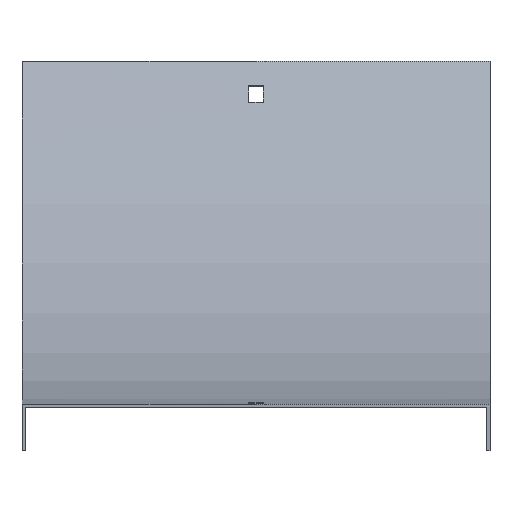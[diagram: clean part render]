
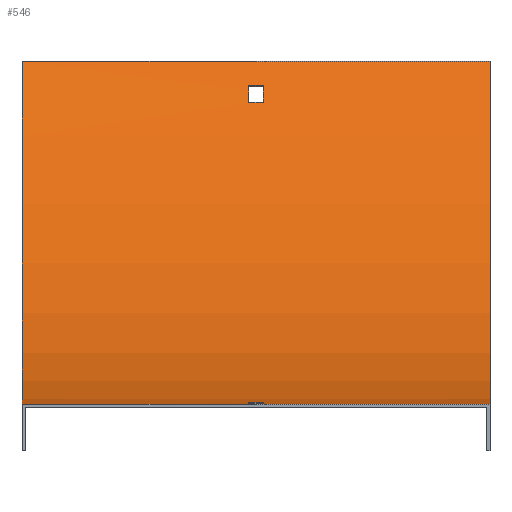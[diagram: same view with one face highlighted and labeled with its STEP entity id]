
A CAD part, top view. The second image highlights one B-rep face of the part: STEP entity #546.
In plain terms, the highlighted cylindrical face has radius 298.5 mm (diameter 597 mm), a partial arc.
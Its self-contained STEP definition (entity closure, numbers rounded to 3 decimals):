
#3 = EDGE_CURVE ( 'NONE', #264, #477, #320, .T. ) ;
#5 = ORIENTED_EDGE ( 'NONE', *, *, #160, .F. ) ;
#7 = CARTESIAN_POINT ( 'NONE',  ( 3.25, 0.74, -21. ) ) ;
#17 = ORIENTED_EDGE ( 'NONE', *, *, #131, .T. ) ;
#23 = CIRCLE ( 'NONE', #360, 298.5 ) ;
#28 = DIRECTION ( 'NONE',  ( 1., 0., 0. ) ) ;
#31 = VERTEX_POINT ( 'NONE', #132 ) ;
#32 = CYLINDRICAL_SURFACE ( 'NONE', #474, 298.5 ) ;
#34 = DIRECTION ( 'NONE',  ( -1., 0., 0. ) ) ;
#35 = VECTOR ( 'NONE', #579, 1000. ) ;
#36 = VERTEX_POINT ( 'NONE', #220 ) ;
#63 = EDGE_CURVE ( 'NONE', #458, #354, #23, .T. ) ;
#66 = AXIS2_PLACEMENT_3D ( 'NONE', #186, #272, #377 ) ;
#67 = CARTESIAN_POINT ( 'NONE',  ( 101.5, 149.25, -258.509 ) ) ;
#72 = ORIENTED_EDGE ( 'NONE', *, *, #420, .T. ) ;
#73 = CARTESIAN_POINT ( 'NONE',  ( 3.25, 138.978, -252.3 ) ) ;
#75 = EDGE_CURVE ( 'NONE', #354, #380, #100, .T. ) ;
#80 = DIRECTION ( 'NONE',  ( 1., 0., 0. ) ) ;
#81 = AXIS2_PLACEMENT_3D ( 'NONE', #172, #80, #210 ) ;
#83 = FACE_OUTER_BOUND ( 'NONE', #293, .T. ) ;
#89 = DIRECTION ( 'NONE',  ( 1., 0., 0. ) ) ;
#94 = DIRECTION ( 'NONE',  ( -1., 0., 0. ) ) ;
#96 = LINE ( 'NONE', #178, #393 ) ;
#100 = LINE ( 'NONE', #135, #101 ) ;
#101 = VECTOR ( 'NONE', #89, 1000. ) ;
#111 = CARTESIAN_POINT ( 'NONE',  ( 101.5, 0., 0. ) ) ;
#114 = EDGE_CURVE ( 'NONE', #36, #264, #96, .T. ) ;
#118 = EDGE_CURVE ( 'NONE', #31, #366, #372, .T. ) ;
#131 = EDGE_CURVE ( 'NONE', #163, #36, #505, .T. ) ;
#132 = CARTESIAN_POINT ( 'NONE',  ( -101.5, 149.25, -258.509 ) ) ;
#135 = CARTESIAN_POINT ( 'NONE',  ( 101.5, 131.433, -247.368 ) ) ;
#153 = CARTESIAN_POINT ( 'NONE',  ( -101.5, 0., 0. ) ) ;
#154 = CARTESIAN_POINT ( 'NONE',  ( -3.25, 0.241, -12. ) ) ;
#160 = EDGE_CURVE ( 'NONE', #399, #268, #291, .T. ) ;
#163 = VERTEX_POINT ( 'NONE', #7 ) ;
#172 = CARTESIAN_POINT ( 'NONE',  ( 3.25, 298.5, 0. ) ) ;
#175 = DIRECTION ( 'NONE',  ( 0., 0., 1. ) ) ;
#178 = CARTESIAN_POINT ( 'NONE',  ( 101.5, 0.241, -12. ) ) ;
#186 = CARTESIAN_POINT ( 'NONE',  ( -101.5, 298.5, 0. ) ) ;
#188 = CARTESIAN_POINT ( 'NONE',  ( 101.5, 0., 0. ) ) ;
#189 = EDGE_CURVE ( 'NONE', #547, #458, #391, .T. ) ;
#194 = CARTESIAN_POINT ( 'NONE',  ( -3.25, 131.433, -247.368 ) ) ;
#196 = ORIENTED_EDGE ( 'NONE', *, *, #114, .T. ) ;
#201 = LINE ( 'NONE', #111, #227 ) ;
#206 = ORIENTED_EDGE ( 'NONE', *, *, #118, .T. ) ;
#210 = DIRECTION ( 'NONE',  ( 0., 0., 1. ) ) ;
#212 = DIRECTION ( 'NONE',  ( 0., 0., 1. ) ) ;
#215 = VECTOR ( 'NONE', #28, 1000. ) ;
#220 = CARTESIAN_POINT ( 'NONE',  ( 3.25, 0.241, -12. ) ) ;
#223 = ORIENTED_EDGE ( 'NONE', *, *, #189, .F. ) ;
#227 = VECTOR ( 'NONE', #578, 1000. ) ;
#248 = CARTESIAN_POINT ( 'NONE',  ( -3.25, 0.74, -21. ) ) ;
#254 = CIRCLE ( 'NONE', #81, 298.5 ) ;
#257 = CARTESIAN_POINT ( 'NONE',  ( 101.5, 298.5, 0. ) ) ;
#259 = ORIENTED_EDGE ( 'NONE', *, *, #63, .F. ) ;
#264 = VERTEX_POINT ( 'NONE', #154 ) ;
#268 = VERTEX_POINT ( 'NONE', #188 ) ;
#270 = CARTESIAN_POINT ( 'NONE',  ( 101.5, 298.5, 0. ) ) ;
#272 = DIRECTION ( 'NONE',  ( -1., 0., 0. ) ) ;
#275 = CARTESIAN_POINT ( 'NONE',  ( -3.25, 298.5, 0. ) ) ;
#276 = EDGE_LOOP ( 'NONE', ( #259, #223, #359, #500 ) ) ;
#281 = DIRECTION ( 'NONE',  ( -1., 0., 0. ) ) ;
#291 = CIRCLE ( 'NONE', #361, 298.5 ) ;
#293 = EDGE_LOOP ( 'NONE', ( #206, #566, #5, #397 ) ) ;
#297 = ORIENTED_EDGE ( 'NONE', *, *, #3, .T. ) ;
#298 = LINE ( 'NONE', #590, #407 ) ;
#304 = CARTESIAN_POINT ( 'NONE',  ( -3.25, 298.5, 0. ) ) ;
#305 = LINE ( 'NONE', #545, #215 ) ;
#319 = EDGE_LOOP ( 'NONE', ( #196, #297, #72, #17 ) ) ;
#320 = CIRCLE ( 'NONE', #513, 298.5 ) ;
#322 = EDGE_CURVE ( 'NONE', #268, #366, #201, .T. ) ;
#325 = DIRECTION ( 'NONE',  ( -1., 0., 0. ) ) ;
#332 = CARTESIAN_POINT ( 'NONE',  ( 101.5, 138.978, -252.3 ) ) ;
#346 = FACE_BOUND ( 'NONE', #276, .T. ) ;
#354 = VERTEX_POINT ( 'NONE', #194 ) ;
#359 = ORIENTED_EDGE ( 'NONE', *, *, #411, .F. ) ;
#360 = AXIS2_PLACEMENT_3D ( 'NONE', #275, #511, #514 ) ;
#361 = AXIS2_PLACEMENT_3D ( 'NONE', #270, #325, #463 ) ;
#366 = VERTEX_POINT ( 'NONE', #153 ) ;
#372 = CIRCLE ( 'NONE', #66, 298.5 ) ;
#373 = DIRECTION ( 'NONE',  ( 0., 0., -1. ) ) ;
#377 = DIRECTION ( 'NONE',  ( 0., 0., 1. ) ) ;
#380 = VERTEX_POINT ( 'NONE', #575 ) ;
#391 = LINE ( 'NONE', #332, #35 ) ;
#393 = VECTOR ( 'NONE', #94, 1000. ) ;
#397 = ORIENTED_EDGE ( 'NONE', *, *, #413, .T. ) ;
#399 = VERTEX_POINT ( 'NONE', #67 ) ;
#407 = VECTOR ( 'NONE', #550, 1000. ) ;
#411 = EDGE_CURVE ( 'NONE', #380, #547, #254, .T. ) ;
#413 = EDGE_CURVE ( 'NONE', #399, #31, #298, .T. ) ;
#420 = EDGE_CURVE ( 'NONE', #477, #163, #305, .T. ) ;
#448 = FACE_BOUND ( 'NONE', #319, .T. ) ;
#458 = VERTEX_POINT ( 'NONE', #595 ) ;
#463 = DIRECTION ( 'NONE',  ( 0., 0., 1. ) ) ;
#465 = CARTESIAN_POINT ( 'NONE',  ( 3.25, 298.5, 0. ) ) ;
#474 = AXIS2_PLACEMENT_3D ( 'NONE', #257, #34, #212 ) ;
#477 = VERTEX_POINT ( 'NONE', #248 ) ;
#500 = ORIENTED_EDGE ( 'NONE', *, *, #75, .F. ) ;
#505 = CIRCLE ( 'NONE', #564, 298.5 ) ;
#511 = DIRECTION ( 'NONE',  ( -1., 0., 0. ) ) ;
#513 = AXIS2_PLACEMENT_3D ( 'NONE', #304, #549, #175 ) ;
#514 = DIRECTION ( 'NONE',  ( 0., 1., 0. ) ) ;
#545 = CARTESIAN_POINT ( 'NONE',  ( 101.5, 0.74, -21. ) ) ;
#546 = ADVANCED_FACE ( 'NONE', ( #83, #448, #346 ), #32, .F. ) ;
#547 = VERTEX_POINT ( 'NONE', #73 ) ;
#549 = DIRECTION ( 'NONE',  ( 1., 0., 0. ) ) ;
#550 = DIRECTION ( 'NONE',  ( -1., 0., 0. ) ) ;
#564 = AXIS2_PLACEMENT_3D ( 'NONE', #465, #281, #373 ) ;
#566 = ORIENTED_EDGE ( 'NONE', *, *, #322, .F. ) ;
#575 = CARTESIAN_POINT ( 'NONE',  ( 3.25, 131.433, -247.368 ) ) ;
#578 = DIRECTION ( 'NONE',  ( -1., 0., 0. ) ) ;
#579 = DIRECTION ( 'NONE',  ( -1., 0., 0. ) ) ;
#590 = CARTESIAN_POINT ( 'NONE',  ( 101.5, 149.25, -258.509 ) ) ;
#595 = CARTESIAN_POINT ( 'NONE',  ( -3.25, 138.978, -252.3 ) ) ;
